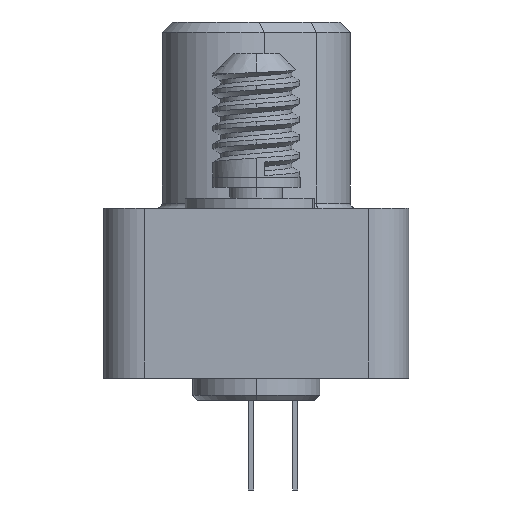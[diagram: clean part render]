
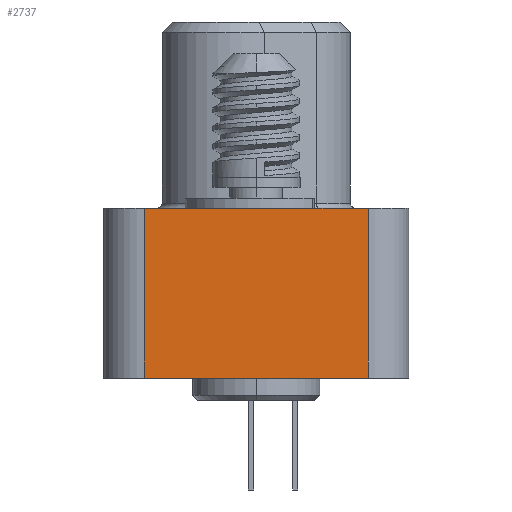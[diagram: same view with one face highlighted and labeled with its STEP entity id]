
A CAD part, left-side view. The second image highlights one B-rep face of the part: STEP entity #2737.
In plain terms, the highlighted planar face has unit normal (-1, 0, 0).
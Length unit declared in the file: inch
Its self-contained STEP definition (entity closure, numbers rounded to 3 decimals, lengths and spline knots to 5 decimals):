
#389 = EDGE_CURVE ( 'NONE', #8553, #5649, #17254, .T. ) ;
#771 = DIRECTION ( 'NONE',  ( 0., 0., 1. ) ) ;
#1106 = DIRECTION ( 'NONE',  ( 0., 0., -1. ) ) ;
#1123 = ORIENTED_EDGE ( 'NONE', *, *, #15352, .F. ) ;
#1143 = DIRECTION ( 'NONE',  ( 0., 0., -1. ) ) ;
#2737 = ADVANCED_FACE ( 'NONE', ( #15835 ), #8592, .F. ) ;
#2942 = CARTESIAN_POINT ( 'NONE',  ( -0.4625, -0.11, 0.042 ) ) ;
#3176 = CARTESIAN_POINT ( 'NONE',  ( -0.4625, -0.11, -0.125 ) ) ;
#4237 = DIRECTION ( 'NONE',  ( 0., -1., 0. ) ) ;
#4370 = ORIENTED_EDGE ( 'NONE', *, *, #8021, .F. ) ;
#4903 = CARTESIAN_POINT ( 'NONE',  ( -0.4625, -0.11, -0.125 ) ) ;
#5649 = VERTEX_POINT ( 'NONE', #10146 ) ;
#5707 = CARTESIAN_POINT ( 'NONE',  ( -0.4625, 0.11, 0.042 ) ) ;
#6838 = ORIENTED_EDGE ( 'NONE', *, *, #17440, .F. ) ;
#7208 = VERTEX_POINT ( 'NONE', #3176 ) ;
#7447 = VECTOR ( 'NONE', #4237, 39.37008 ) ;
#7875 = LINE ( 'NONE', #5707, #7447 ) ;
#8021 = EDGE_CURVE ( 'NONE', #16480, #7208, #9017, .T. ) ;
#8553 = VERTEX_POINT ( 'NONE', #8935 ) ;
#8592 = PLANE ( 'NONE',  #16070 ) ;
#8935 = CARTESIAN_POINT ( 'NONE',  ( -0.4625, 0.11, 0.042 ) ) ;
#9017 = LINE ( 'NONE', #12921, #12550 ) ;
#9570 = DIRECTION ( 'NONE',  ( 1., 0., 0. ) ) ;
#9909 = CARTESIAN_POINT ( 'NONE',  ( -0.4625, 0.11, 0.042 ) ) ;
#10146 = CARTESIAN_POINT ( 'NONE',  ( -0.4625, 0.11, -0.125 ) ) ;
#10567 = EDGE_LOOP ( 'NONE', ( #13872, #6838, #4370, #1123 ) ) ;
#11422 = VECTOR ( 'NONE', #13839, 39.37008 ) ;
#12550 = VECTOR ( 'NONE', #1143, 39.37008 ) ;
#12921 = CARTESIAN_POINT ( 'NONE',  ( -0.4625, -0.11, 0.042 ) ) ;
#13839 = DIRECTION ( 'NONE',  ( 0., 1., 0. ) ) ;
#13872 = ORIENTED_EDGE ( 'NONE', *, *, #389, .T. ) ;
#14944 = LINE ( 'NONE', #4903, #11422 ) ;
#15352 = EDGE_CURVE ( 'NONE', #8553, #16480, #7875, .T. ) ;
#15630 = CARTESIAN_POINT ( 'NONE',  ( -0.4625, 0.11, 0.042 ) ) ;
#15835 = FACE_OUTER_BOUND ( 'NONE', #10567, .T. ) ;
#16070 = AXIS2_PLACEMENT_3D ( 'NONE', #15630, #9570, #771 ) ;
#16480 = VERTEX_POINT ( 'NONE', #2942 ) ;
#17254 = LINE ( 'NONE', #9909, #18153 ) ;
#17440 = EDGE_CURVE ( 'NONE', #7208, #5649, #14944, .T. ) ;
#18153 = VECTOR ( 'NONE', #1106, 39.37008 ) ;
